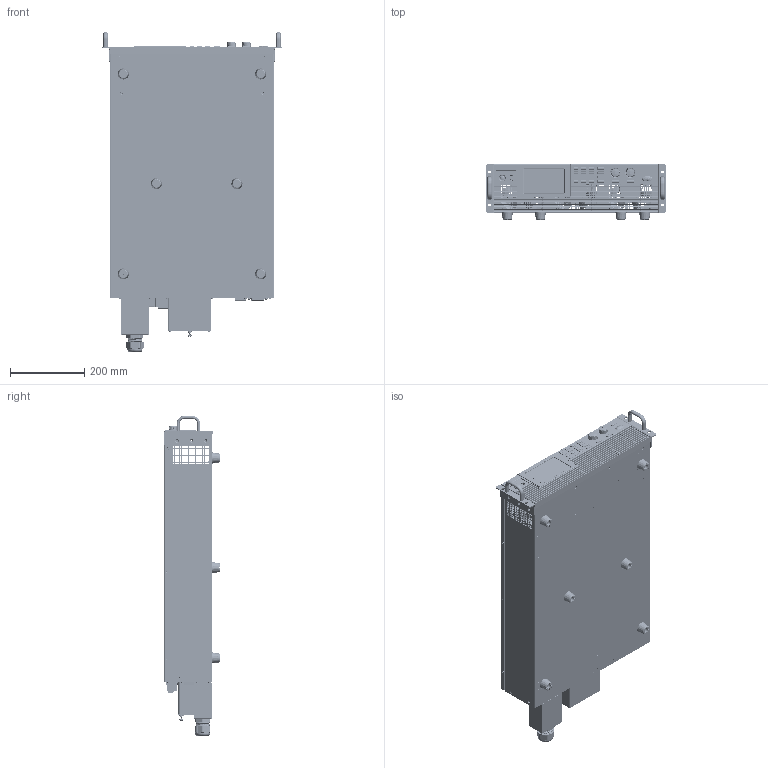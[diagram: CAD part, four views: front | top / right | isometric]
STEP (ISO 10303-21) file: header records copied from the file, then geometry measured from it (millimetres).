
FILE_DESCRIPTION((''),'2;1');
FILE_NAME('PHU-15K_ASM_ASM_ASM','2024-10-11T14:27:02',('jeffery_kuo'),(''),'CREO PARAMETRIC BY PTC INC, 2019080','CREO PARAMETRIC BY PTC INC, 2019080','');
FILE_SCHEMA(('CONFIG_CONTROL_DESIGN'));
Products named in the file (196): PHU-15K_ASM_SKEL0001_18; PHU-15K-F1_ASM_SKEL0002_33; 63FP-SG103701_123; INSERT-CU_2; 63FP-SG103701_ASM_29_ASM; ASR6000_OUTPUT_PROTECT_FRAME-C_; PHU15K_FRAME-C_ASM_11_ASM; PHU15K_KEY_PCB-C_54; 44UB-K0401101-ARIBA_105; ENCODE_SW_L25-ALPS_8; CTT-1137_102; BMS-W-3X6_11; LED16X125S_100; PHU-15K-KEY-PCB_ASM-C_ASM_123_ASM; TH050800480NYR50S1_106; 62HU-1K0HP101_8; 51PM-83100201_10; 57RG-20B06301_2; 57RG-20B06201_2; PHU15K_LCD_ASM_ASM_115_ASM; 57RB-40G17801_65; 57RB-40G17901_55; 57RB-40G18301_12; 5005-240G0301_20; PHU15K_MODEL_NP-C_10; 51HU-1K000101_9; 57RB-40G16101_49; BTS-LOCK-3X6_4; PHU15K_FRONT_ASM-C_ASM_82_ASM; PHU-15K-FP1_ASM-C_SKEL0001_10; 62HU-1K0FP101_74; 62HU-1K0FP101-IRON-FILTER_36; 62HU-1K0FP101_ASM_46_ASM; PHU-15K-FP1_ASM-C_ASM_39_ASM; BMS-W-3X8_11; PHU-15K-F1_ASM_ASM_255_ASM; PHU-15K-LO1_ASM_SKEL0001_31; 62HU-1K0LO101_82; 62HU-1K0LO101-LO-3X6PIN_3; SO-M3-7_10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
Assembly tree (537 placements, depth 7):
  PHU-15K_ASM_ASM_ASM
    PHU-15K_ASM_ASM_840_ASM
      PHU-15K_ASM_SKEL0001_18
      PHU-15K-F1_ASM_ASM_255_ASM
        PHU-15K-F1_ASM_SKEL0002_33
        PHU15K_FRONT_ASM-C_ASM_82_ASM
          PHU15K_FRAME-C_ASM_11_ASM
            63FP-SG103701_ASM_29_ASM
              63FP-SG103701_123
              INSERT-CU_2  x8
            ASR6000_OUTPUT_PROTECT_FRAME-C_
          PHU-15K-KEY-PCB_ASM-C_ASM_123_ASM
            PHU15K_KEY_PCB-C_54
            44UB-K0401101-ARIBA_105
            ENCODE_SW_L25-ALPS_8  x2
            CTT-1137_102  x21
            BMS-W-3X6_11  x2
            LED16X125S_100  x8
          PHU15K_LCD_ASM_ASM_115_ASM
            TH050800480NYR50S1_106
            62HU-1K0HP101_8
            51PM-83100201_10
            57RG-20B06301_2  x2
            57RG-20B06201_2  x2
          57RB-40G17801_65
          57RB-40G17901_55
          57RB-40G18301_12
          5005-240G0301_20  x2
          PHU15K_MODEL_NP-C_10
          51HU-1K000101_9
          57RB-40G16101_49
          BTS-LOCK-3X6_4  x18
        PHU-15K-FP1_ASM-C_ASM_39_ASM
          PHU-15K-FP1_ASM-C_SKEL0001_10
          62HU-1K0FP101_ASM_46_ASM
            62HU-1K0FP101_74
            62HU-1K0FP101-IRON-FILTER_36
        BMS-W-3X8_11  x8
      PHU-15K-LO1_ASM_ASM_256_ASM
        PHU-15K-LO1_ASM_SKEL0001_31
        62HU-1K0LO101_ASM_83_ASM
          62HU-1K0LO101_82
          62HU-1K0LO101-LO-3X6PIN_3  x10
          SO-M3-7_10  x40
        57IL-28F29101_18  x3
        57FC-10B01201_10  x6
        PHU-15K-FAN-HP1_ASM_ASM_24_ASM
          62HU-1K0HP201_ASM_5_ASM
            62HU-1K0HP201_66
          62HU-1K0HP301_ASM_7_ASM  x3
            62HU-1K0HP301_21
          FAN-119X119-25_1  x3
          SR-4KT_ASM_103_ASM  x12
            5320-01000501-SR-4KT-Z_101
            5320-01000401-SR-4KT-A_100
        PHU-15K-AUX-POWER_ASM-1_ASM_51_ASM
          PHU-15K-AUX-POWER-1_14
          0032-2404-SP-03-DINKLE_7
          39PC-20401701-PCB-27-M4-KY_6  x4
          39PC-20401501-PCB-7-M4-KY_5  x4
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Bounding box: 482.6 x 149.75 x 861.07 mm (x, y, z)
Volume: 2294915.6 mm3; surface area: 3320120.6 mm2
Topology: 489 solids, 507 shells, 34400 faces, 92907 edges, 60043 vertices
Faces by surface type: plane 22994, cylinder 7449, cone 2139, torus 640, sphere 547, bspline 523, extrusion 100, revolution 8
Entity records: 774037 total; most frequent: CARTESIAN_POINT 194694, ORIENTED_EDGE 121820, DIRECTION 113339, EDGE_CURVE 60910, VECTOR 46969, LINE 46949, VERTEX_POINT 39588, AXIS2_PLACEMENT_3D 33181
